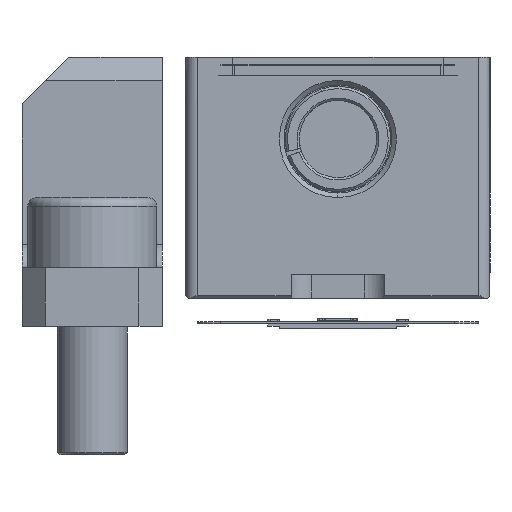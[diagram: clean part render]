
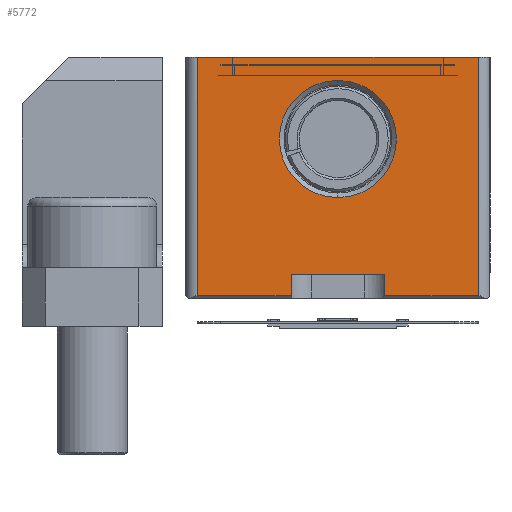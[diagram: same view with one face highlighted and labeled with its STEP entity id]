
A CAD part, left-side view. The second image highlights one B-rep face of the part: STEP entity #5772.
In plain terms, the highlighted planar face has unit normal (-1, 0, 0).
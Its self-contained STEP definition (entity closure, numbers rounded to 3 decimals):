
#741 = DIRECTION ( 'NONE',  ( 1., 0., 0. ) ) ;
#1030 = VERTEX_POINT ( 'NONE', #25659 ) ;
#1145 = VECTOR ( 'NONE', #25844, 1000. ) ;
#2490 = VECTOR ( 'NONE', #7377, 1000. ) ;
#3311 = EDGE_CURVE ( 'NONE', #6179, #22932, #31176, .T. ) ;
#4885 = ORIENTED_EDGE ( 'NONE', *, *, #23989, .F. ) ;
#5389 = PLANE ( 'NONE',  #15169 ) ;
#5566 = CARTESIAN_POINT ( 'NONE',  ( -17., -2., 10.3 ) ) ;
#5772 = ADVANCED_FACE ( 'NONE', ( #26775, #35739 ), #5389, .F. ) ;
#6004 = CARTESIAN_POINT ( 'NONE',  ( -17., 6., 10.3 ) ) ;
#6124 = EDGE_CURVE ( 'NONE', #15538, #9368, #24147, .T. ) ;
#6179 = VERTEX_POINT ( 'NONE', #6004 ) ;
#6806 = VECTOR ( 'NONE', #28943, 1000. ) ;
#7239 = AXIS2_PLACEMENT_3D ( 'NONE', #14754, #24135, #24731 ) ;
#7377 = DIRECTION ( 'NONE',  ( 0., 0., -1. ) ) ;
#7547 = AXIS2_PLACEMENT_3D ( 'NONE', #15875, #741, #12879 ) ;
#8736 = ORIENTED_EDGE ( 'NONE', *, *, #20815, .F. ) ;
#9029 = LINE ( 'NONE', #18410, #9364 ) ;
#9364 = VECTOR ( 'NONE', #15402, 1000. ) ;
#9368 = VERTEX_POINT ( 'NONE', #35320 ) ;
#9489 = ORIENTED_EDGE ( 'NONE', *, *, #29673, .T. ) ;
#10811 = CARTESIAN_POINT ( 'NONE',  ( -17., -6.5, 10.3 ) ) ;
#11069 = CIRCLE ( 'NONE', #7239, 2.5 ) ;
#12318 = VECTOR ( 'NONE', #27334, 1000. ) ;
#12879 = DIRECTION ( 'NONE',  ( 0., 0., -1. ) ) ;
#13025 = EDGE_CURVE ( 'NONE', #9368, #15538, #11069, .T. ) ;
#13239 = VERTEX_POINT ( 'NONE', #26304 ) ;
#13551 = CARTESIAN_POINT ( 'NONE',  ( -17., 2., 0.1 ) ) ;
#13912 = CARTESIAN_POINT ( 'NONE',  ( -17., -2., 1. ) ) ;
#14150 = LINE ( 'NONE', #27127, #14362 ) ;
#14163 = VECTOR ( 'NONE', #39046, 1000. ) ;
#14362 = VECTOR ( 'NONE', #38495, 1000. ) ;
#14384 = VECTOR ( 'NONE', #36301, 1000. ) ;
#14754 = CARTESIAN_POINT ( 'NONE',  ( -17., 0., 6.8 ) ) ;
#15169 = AXIS2_PLACEMENT_3D ( 'NONE', #10811, #19792, #19986 ) ;
#15402 = DIRECTION ( 'NONE',  ( 0., -1., 0. ) ) ;
#15538 = VERTEX_POINT ( 'NONE', #36670 ) ;
#15648 = VERTEX_POINT ( 'NONE', #19115 ) ;
#15875 = CARTESIAN_POINT ( 'NONE',  ( -17., 0., 6.8 ) ) ;
#16363 = CARTESIAN_POINT ( 'NONE',  ( -17., 6., 0.1 ) ) ;
#16741 = CARTESIAN_POINT ( 'NONE',  ( -17., 2., 10.3 ) ) ;
#16834 = CARTESIAN_POINT ( 'NONE',  ( -17., -6.5, 1. ) ) ;
#17770 = EDGE_LOOP ( 'NONE', ( #31714, #23391 ) ) ;
#18410 = CARTESIAN_POINT ( 'NONE',  ( -17., -6.5, 0.1 ) ) ;
#18559 = EDGE_CURVE ( 'NONE', #22932, #39433, #27089, .T. ) ;
#19115 = CARTESIAN_POINT ( 'NONE',  ( -17., 2., 1. ) ) ;
#19792 = DIRECTION ( 'NONE',  ( 1., 0., 0. ) ) ;
#19986 = DIRECTION ( 'NONE',  ( 0., 0., -1. ) ) ;
#20815 = EDGE_CURVE ( 'NONE', #6179, #1030, #36689, .T. ) ;
#22839 = LINE ( 'NONE', #16834, #1145 ) ;
#22932 = VERTEX_POINT ( 'NONE', #16363 ) ;
#23086 = EDGE_CURVE ( 'NONE', #29432, #1030, #14150, .T. ) ;
#23391 = ORIENTED_EDGE ( 'NONE', *, *, #6124, .T. ) ;
#23639 = ORIENTED_EDGE ( 'NONE', *, *, #23086, .T. ) ;
#23989 = EDGE_CURVE ( 'NONE', #13239, #32005, #35512, .T. ) ;
#24135 = DIRECTION ( 'NONE',  ( 1., 0., 0. ) ) ;
#24147 = CIRCLE ( 'NONE', #7547, 2.5 ) ;
#24731 = DIRECTION ( 'NONE',  ( 0., 0., -1. ) ) ;
#25659 = CARTESIAN_POINT ( 'NONE',  ( -17., -6., 10.3 ) ) ;
#25844 = DIRECTION ( 'NONE',  ( 0., -1., 0. ) ) ;
#26304 = CARTESIAN_POINT ( 'NONE',  ( -17., -2., 0.1 ) ) ;
#26775 = FACE_BOUND ( 'NONE', #17770, .T. ) ;
#26902 = CARTESIAN_POINT ( 'NONE',  ( -17., -6.5, 0.1 ) ) ;
#27089 = LINE ( 'NONE', #26902, #14163 ) ;
#27127 = CARTESIAN_POINT ( 'NONE',  ( -17., -6., 10.3 ) ) ;
#27334 = DIRECTION ( 'NONE',  ( 0., -1., 0. ) ) ;
#27498 = EDGE_CURVE ( 'NONE', #15648, #39433, #35302, .T. ) ;
#27689 = ORIENTED_EDGE ( 'NONE', *, *, #27498, .F. ) ;
#28943 = DIRECTION ( 'NONE',  ( 0., 0., -1. ) ) ;
#29432 = VERTEX_POINT ( 'NONE', #35801 ) ;
#29673 = EDGE_CURVE ( 'NONE', #13239, #29432, #9029, .T. ) ;
#29720 = ORIENTED_EDGE ( 'NONE', *, *, #37888, .T. ) ;
#30857 = ORIENTED_EDGE ( 'NONE', *, *, #3311, .T. ) ;
#31176 = LINE ( 'NONE', #31955, #2490 ) ;
#31714 = ORIENTED_EDGE ( 'NONE', *, *, #13025, .T. ) ;
#31955 = CARTESIAN_POINT ( 'NONE',  ( -17., 6., 10.3 ) ) ;
#32005 = VERTEX_POINT ( 'NONE', #13912 ) ;
#32675 = EDGE_LOOP ( 'NONE', ( #8736, #30857, #35422, #27689, #29720, #4885, #9489, #23639 ) ) ;
#35302 = LINE ( 'NONE', #16741, #6806 ) ;
#35320 = CARTESIAN_POINT ( 'NONE',  ( -17., 0., 9.3 ) ) ;
#35422 = ORIENTED_EDGE ( 'NONE', *, *, #18559, .T. ) ;
#35512 = LINE ( 'NONE', #5566, #14384 ) ;
#35739 = FACE_OUTER_BOUND ( 'NONE', #32675, .T. ) ;
#35801 = CARTESIAN_POINT ( 'NONE',  ( -17., -6., 0.1 ) ) ;
#35914 = CARTESIAN_POINT ( 'NONE',  ( -17., -6.5, 10.3 ) ) ;
#36301 = DIRECTION ( 'NONE',  ( 0., 0., 1. ) ) ;
#36670 = CARTESIAN_POINT ( 'NONE',  ( -17., 0., 4.3 ) ) ;
#36689 = LINE ( 'NONE', #35914, #12318 ) ;
#37888 = EDGE_CURVE ( 'NONE', #15648, #32005, #22839, .T. ) ;
#38495 = DIRECTION ( 'NONE',  ( 0., 0., 1. ) ) ;
#39046 = DIRECTION ( 'NONE',  ( 0., -1., 0. ) ) ;
#39433 = VERTEX_POINT ( 'NONE', #13551 ) ;
